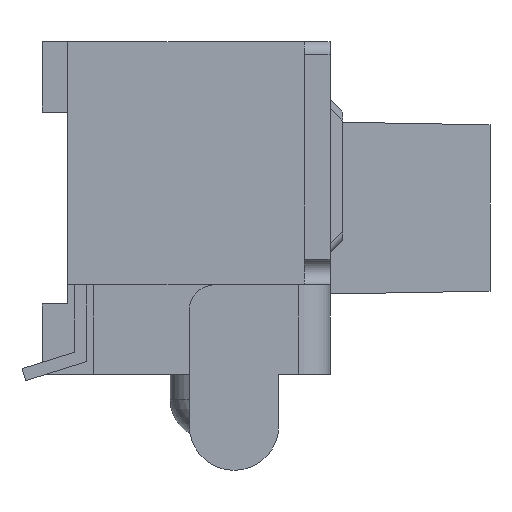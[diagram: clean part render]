
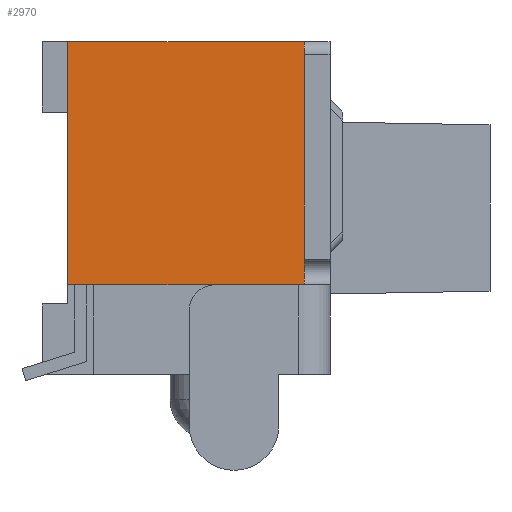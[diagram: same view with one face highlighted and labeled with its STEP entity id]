
A CAD part, left-side view. The second image highlights one B-rep face of the part: STEP entity #2970.
In plain terms, the highlighted planar face has unit normal (-1, 0, 0).
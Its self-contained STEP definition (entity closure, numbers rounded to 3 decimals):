
#117=DIRECTION('',(0.,0.,1.));
#118=VECTOR('',#117,1.9);
#119=CARTESIAN_POINT('',(-2.625,0.,-0.6));
#120=LINE('',#119,#118);
#1302=DIRECTION('',(0.,1.,0.));
#1303=VECTOR('',#1302,1.85);
#1304=CARTESIAN_POINT('',(-2.625,0.,1.3));
#1305=LINE('',#1304,#1303);
#1344=DIRECTION('',(0.,0.,1.));
#1345=VECTOR('',#1344,1.9);
#1346=CARTESIAN_POINT('',(-2.625,1.85,-0.6));
#1347=LINE('',#1346,#1345);
#1351=DIRECTION('',(0.,1.,0.));
#1352=VECTOR('',#1351,1.85);
#1353=CARTESIAN_POINT('',(-2.625,0.,-0.6));
#1354=LINE('',#1353,#1352);
#1568=CARTESIAN_POINT('',(-2.625,0.,1.3));
#1570=VERTEX_POINT('',#1568);
#1668=CARTESIAN_POINT('',(-2.625,0.,-0.6));
#1670=VERTEX_POINT('',#1668);
#1692=CARTESIAN_POINT('',(-2.625,1.85,-0.6));
#1693=CARTESIAN_POINT('',(-2.625,1.85,1.3));
#1694=VERTEX_POINT('',#1692);
#1695=VERTEX_POINT('',#1693);
#2959=CARTESIAN_POINT('',(-2.625,0.,-1.3));
#2960=DIRECTION('',(-1.,0.,0.));
#2961=DIRECTION('',(0.,0.,1.));
#2962=AXIS2_PLACEMENT_3D('',#2959,#2960,#2961);
#2963=PLANE('',#2962);
#2964=ORIENTED_EDGE('',*,*,#2524,.T.);
#2965=ORIENTED_EDGE('',*,*,#2939,.F.);
#2966=ORIENTED_EDGE('',*,*,#1835,.F.);
#2967=ORIENTED_EDGE('',*,*,#2445,.T.);
#2968=EDGE_LOOP('',(#2964,#2965,#2966,#2967));
#2969=FACE_OUTER_BOUND('',#2968,.F.);
#1835=EDGE_CURVE('',#1670,#1570,#120,.T.);
#2445=EDGE_CURVE('',#1670,#1694,#1354,.T.);
#2524=EDGE_CURVE('',#1694,#1695,#1347,.T.);
#2939=EDGE_CURVE('',#1570,#1695,#1305,.T.);
#2970=ADVANCED_FACE('',(#2969),#2963,.T.);
